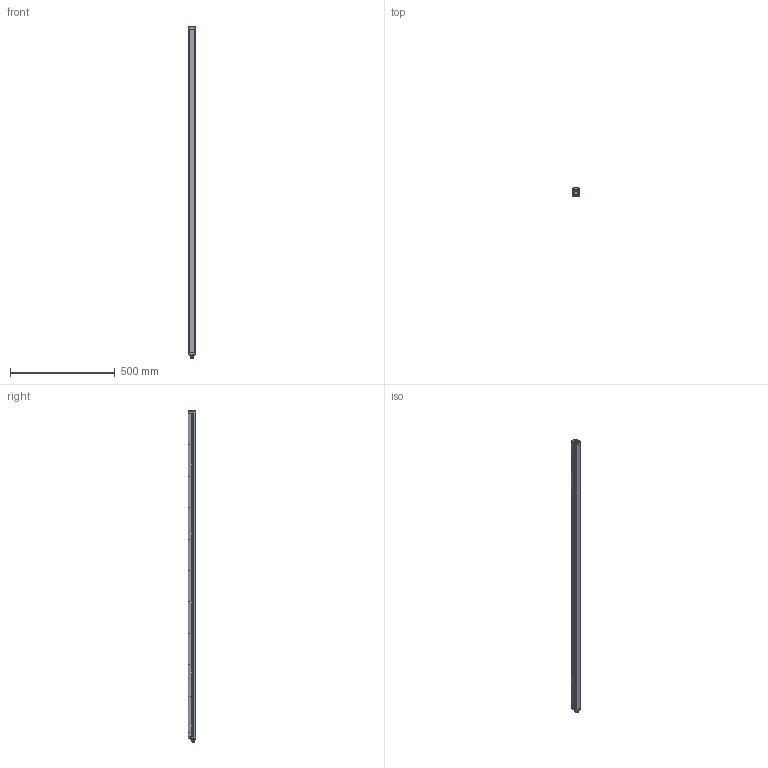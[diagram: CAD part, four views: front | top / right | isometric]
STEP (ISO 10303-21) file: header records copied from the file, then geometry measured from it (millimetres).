
FILE_DESCRIPTION(/* description */ (''),/* implementation_level */ '2;1');
FILE_NAME(/* name */ 'DSD-0166.stp',/* time_stamp */ '2020-07-16T11:40:40+02:00',/* author */ (''),/* organization */ (''),/* preprocessor_version */ 'ST-DEVELOPER v16.7',/* originating_system */ 'SIEMENS PLM Software NX 12.0',/* authorisation */ '');
FILE_SCHEMA (('AUTOMOTIVE_DESIGN { 1 0 10303 214 3 1 1 1 }'));
Products named in the file (1): AP025818_00_1-DSD-0166
Bounding box: 32.3 x 36.9 x 1583.34 mm (x, y, z)
Volume: 1591241.9 mm3; surface area: 367932.1 mm2
Topology: 12 solids, 716 shells, 1641 faces, 5132 edges, 4035 vertices
Faces by surface type: cylinder 608, bspline 570, plane 378, sphere 48, cone 29, torus 8
Full cylindrical faces by diameter (mm): 1 x10, 1.5 x6, 2 x6, 2.05 x4, 2.5 x12, 2.7 x10, 2.9 x6, 3 x12, 3.4 x6, 3.6 x12, 4.7 x2, 5 x10, 5.3 x2, 7.5 x1, 8 x1, 8.2 x1, 9.3 x1, 9.5 x1, 9.55 x1, 10.5 x1, 11 x2, 12 x12, 13.97 x1, 14.3 x1, 16 x2
Entity records: 84707 total; most frequent: CARTESIAN_POINT 35918, ORIENTED_EDGE 7002, DIRECTION 5957, EDGE_CURVE 4927, VERTEX_POINT 4032, AXIS2_PLACEMENT_3D 2325, EDGE_LOOP 1879, PRESENTATION_STYLE_ASSIGNMENT 1650
